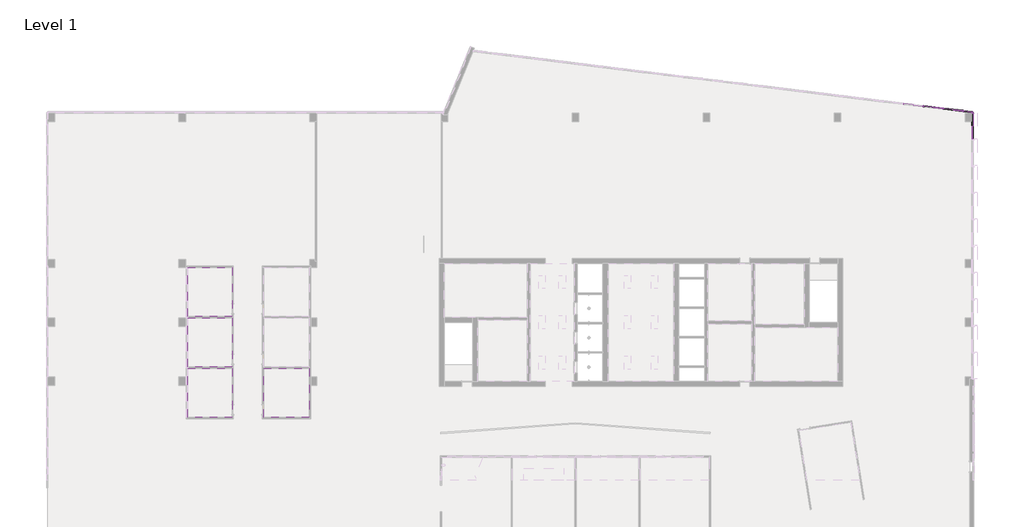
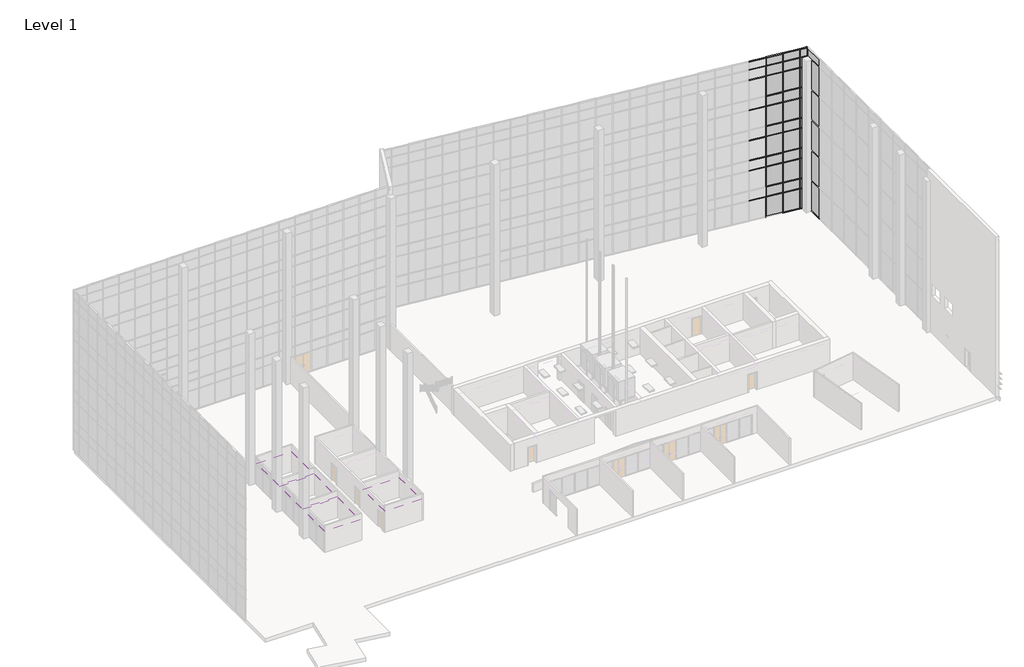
# One storey, part 22 of 23: 70 members, 39 plates, 4 coverings.
"""IFC4 building model written with IfcOpenShell, lengths in millimetres."""

from ifc_helpers import new_model, si_unit, frame, origin, place, context, project, spatial, polyline, outline, extrude, transform, mapped, element, save
from components import member_eccb456b, member_2b49869a, member_f92b8aa2, member_810865a4, member_f0fea5a5, member_6d5c3e5e, member_9764dd38, member_b8a9be14, member_51d7af99, member_28d637ce, member_84e75425, member_62aeda4f, member_2ab0c01c, system_panel_glazed_14c75400, system_panel_glazed_cc37a7cc, system_panel_glazed_4e55321f, system_panel_glazed_949c9f91, system_panel_solid_5dfe6f83, system_panel_solid_e25e2004, system_panel_solid_b7551183, system_panel_solid_72787f54, system_panel_solid_2f76c253, system_panel_solid_3860f7db

model = new_model("IFC4")

# Units and contexts
model_context = context("Model", 3, world=origin())
ifc_project = project(units=[si_unit("LENGTHUNIT", "METRE", prefix="MILLI")], contexts=[model_context])

# Site, building, storey
site = spatial("IfcSite", under=ifc_project)
building = spatial("IfcBuilding", under=site)
storey = spatial("IfcBuildingStorey", under=building, Name="Level 1", Elevation=0.0)

# Coverings
placement = place(None, origin())
element("IfcCovering", 1, ObjectType="2' x 2' ACT System", at=placement, inside=storey, context=model_context, shape_type="SweptSolid", body=[
    extrude(outline(polyline([(-44991.1999355, -13210.5103492), (-44991.1999355, -17655.5103492), (-49131.3999355, -17655.5103492), (-49131.3999355, -13210.5103492), (-44991.1999355, -13210.5103492)])), frame((0.0, 0.0, 2438.4), z_axis=(0.0, 0.0, 1.0), x_axis=(1.0, 0.0, 0.0)), (0.0, 0.0, 1.0), 57.15),
])
element("IfcCovering", 2, ObjectType="2' x 2' ACT System", at=placement, inside=storey, context=model_context, shape_type="SweptSolid", body=[
    extrude(outline(polyline([(-51987.0856498, -17655.5103492), (-56000.2856498, -17655.5103492), (-56000.2856498, -13210.5103492), (-51987.0856498, -13210.5103492), (-51987.0856498, -17655.5103492)])), frame((0.0, 0.0, 2438.4), z_axis=(0.0, 0.0, 1.0), x_axis=(1.0, 0.0, 0.0)), (0.0, 0.0, 1.0), 57.15),
])
element("IfcCovering", 3, ObjectType="2' x 2' ACT System", at=placement, inside=storey, context=model_context, shape_type="SweptSolid", body=[
    extrude(outline(polyline([(-56000.2856498, -13083.5103492), (-56000.2856498, -8638.5103492), (-51987.0856498, -8638.5103492), (-51987.0856498, -13083.5103492), (-56000.2856498, -13083.5103492)])), frame((0.0, 0.0, 2438.4), z_axis=(0.0, 0.0, 1.0), x_axis=(1.0, 0.0, 0.0)), (0.0, 0.0, 1.0), 57.15),
])
element("IfcCovering", 4, ObjectType="2' x 2' ACT System", at=placement, inside=storey, context=model_context, shape_type="SweptSolid", body=[
    extrude(outline(polyline([(-56000.2856498, -8511.5103492), (-56000.2856498, -4066.5103492), (-51987.0856498, -4066.5103492), (-51987.0856498, -8511.5103492), (-56000.2856498, -8511.5103492)])), frame((0.0, 0.0, 2438.4), z_axis=(0.0, 0.0, 1.0), x_axis=(1.0, 0.0, 0.0)), (0.0, 0.0, 1.0), 57.15),
])

# Members
member_shape = member_eccb456b(model_context)
element("IfcMember", 5, ObjectType="Quad Corner Mullion : 5\" x 5\" Quad Corner", at=placement, inside=storey, context=model_context, shape_type="MappedRepresentation", body=[
    mapped(member_shape, transform((15106.8054088, 9928.5486536, 0.0), x_axis=(0.0, 0.0, -1.0), y_axis=(-1.0, 0.0, 0.0), z_axis=(0.0, 1.0, 0.0))),
])
member_2_shape = member_2b49869a(model_context)
element("IfcMember", 6, ObjectType="Rectangular Mullion : 2.5\" x 5\" rectangular", at=placement, inside=storey, context=model_context, shape_type="MappedRepresentation", body=[
    mapped(member_2_shape, transform((12451.1844641, 10342.5479595, 2438.4), x_axis=(0.9925461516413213, -0.12186934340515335, 0.0), y_axis=(-0.12186934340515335, -0.9925461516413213, 0.0), z_axis=(0.0, 0.0, -1.0))),
])
member_3_shape = member_f92b8aa2(model_context)
element("IfcMember", 7, ObjectType="Rectangular Mullion : 2.5\" x 5\" rectangular", at=placement, inside=storey, context=model_context, shape_type="MappedRepresentation", body=[
    mapped(member_3_shape, transform((14266.3528662, 10119.6733043, 18288.0), x_axis=(0.9925461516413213, -0.12186934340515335, 0.0), y_axis=(-0.12186934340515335, -0.9925461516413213, 0.0), z_axis=(0.0, 0.0, -1.0))),
])
element("IfcMember", 8, ObjectType="Rectangular Mullion : 2.5\" x 5\" rectangular", at=placement, inside=storey, context=model_context, shape_type="MappedRepresentation", body=[
    mapped(member_3_shape, transform((12451.1844641, 10342.5479595, 18288.0), x_axis=(0.9925461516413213, -0.12186934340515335, 0.0), y_axis=(-0.12186934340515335, -0.9925461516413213, 0.0), z_axis=(0.0, 0.0, -1.0))),
])
member_4_shape = member_810865a4(model_context)
element("IfcMember", 9, ObjectType="Rectangular Mullion : 2.5\" x 5\" rectangular", at=placement, inside=storey, context=model_context, shape_type="MappedRepresentation", body=[
    mapped(member_4_shape, transform((14266.3528662, 10119.6733043, 14630.4), x_axis=(0.9925461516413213, -0.12186934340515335, 0.0), y_axis=(-0.12186934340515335, -0.9925461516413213, 0.0), z_axis=(0.0, 0.0, -1.0))),
])
element("IfcMember", 10, ObjectType="Rectangular Mullion : 2.5\" x 5\" rectangular", at=placement, inside=storey, context=model_context, shape_type="MappedRepresentation", body=[
    mapped(member_4_shape, transform((14266.3528662, 10119.6733043, 10972.8), x_axis=(0.9925461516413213, -0.12186934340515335, 0.0), y_axis=(-0.12186934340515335, -0.9925461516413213, 0.0), z_axis=(0.0, 0.0, -1.0))),
])
element("IfcMember", 11, ObjectType="Rectangular Mullion : 2.5\" x 5\" rectangular", at=placement, inside=storey, context=model_context, shape_type="MappedRepresentation", body=[
    mapped(member_4_shape, transform((14266.3528662, 10119.6733043, 7315.2), x_axis=(0.9925461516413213, -0.12186934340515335, 0.0), y_axis=(-0.12186934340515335, -0.9925461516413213, 0.0), z_axis=(0.0, 0.0, -1.0))),
])
element("IfcMember", 12, ObjectType="Rectangular Mullion : 2.5\" x 5\" rectangular", at=placement, inside=storey, context=model_context, shape_type="MappedRepresentation", body=[
    mapped(member_4_shape, transform((14266.3528662, 10119.6733043, 3657.6), x_axis=(0.9925461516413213, -0.12186934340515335, 0.0), y_axis=(-0.12186934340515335, -0.9925461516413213, 0.0), z_axis=(0.0, 0.0, -1.0))),
])
element("IfcMember", 13, ObjectType="Rectangular Mullion : 2.5\" x 5\" rectangular", at=placement, inside=storey, context=model_context, shape_type="MappedRepresentation", body=[
    mapped(member_4_shape, transform((12451.1844641, 10342.5479595, 14630.4), x_axis=(0.9925461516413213, -0.12186934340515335, 0.0), y_axis=(-0.12186934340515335, -0.9925461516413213, 0.0), z_axis=(0.0, 0.0, -1.0))),
])
element("IfcMember", 14, ObjectType="Rectangular Mullion : 2.5\" x 5\" rectangular", at=placement, inside=storey, context=model_context, shape_type="MappedRepresentation", body=[
    mapped(member_4_shape, transform((12451.1844641, 10342.5479595, 10972.8), x_axis=(0.9925461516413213, -0.12186934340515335, 0.0), y_axis=(-0.12186934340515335, -0.9925461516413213, 0.0), z_axis=(0.0, 0.0, -1.0))),
])
element("IfcMember", 15, ObjectType="Rectangular Mullion : 2.5\" x 5\" rectangular", at=placement, inside=storey, context=model_context, shape_type="MappedRepresentation", body=[
    mapped(member_4_shape, transform((12451.1844641, 10342.5479595, 7315.2), x_axis=(0.9925461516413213, -0.12186934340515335, 0.0), y_axis=(-0.12186934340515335, -0.9925461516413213, 0.0), z_axis=(0.0, 0.0, -1.0))),
])
element("IfcMember", 16, ObjectType="Rectangular Mullion : 2.5\" x 5\" rectangular", at=placement, inside=storey, context=model_context, shape_type="MappedRepresentation", body=[
    mapped(member_4_shape, transform((12451.1844641, 10342.5479595, 3657.6), x_axis=(0.9925461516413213, -0.12186934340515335, 0.0), y_axis=(-0.12186934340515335, -0.9925461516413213, 0.0), z_axis=(0.0, 0.0, -1.0))),
])
element("IfcMember", 17, ObjectType="Rectangular Mullion : 2.5\" x 5\" rectangular", at=placement, inside=storey, context=model_context, shape_type="MappedRepresentation", body=[
    mapped(member_4_shape, transform((10636.016062, 10565.4226148, 14630.4), x_axis=(0.9925461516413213, -0.12186934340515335, 0.0), y_axis=(-0.12186934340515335, -0.9925461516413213, 0.0), z_axis=(0.0, 0.0, -1.0))),
])
element("IfcMember", 18, ObjectType="Rectangular Mullion : 2.5\" x 5\" rectangular", at=placement, inside=storey, context=model_context, shape_type="MappedRepresentation", body=[
    mapped(member_4_shape, transform((10636.016062, 10565.4226148, 10972.8), x_axis=(0.9925461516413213, -0.12186934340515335, 0.0), y_axis=(-0.12186934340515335, -0.9925461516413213, 0.0), z_axis=(0.0, 0.0, -1.0))),
])
element("IfcMember", 19, ObjectType="Rectangular Mullion : 2.5\" x 5\" rectangular", at=placement, inside=storey, context=model_context, shape_type="MappedRepresentation", body=[
    mapped(member_4_shape, transform((10636.016062, 10565.4226148, 7315.2), x_axis=(0.9925461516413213, -0.12186934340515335, 0.0), y_axis=(-0.12186934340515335, -0.9925461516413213, 0.0), z_axis=(0.0, 0.0, -1.0))),
])
element("IfcMember", 20, ObjectType="Rectangular Mullion : 2.5\" x 5\" rectangular", at=placement, inside=storey, context=model_context, shape_type="MappedRepresentation", body=[
    mapped(member_4_shape, transform((10636.016062, 10565.4226148, 3657.6), x_axis=(0.9925461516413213, -0.12186934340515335, 0.0), y_axis=(-0.12186934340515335, -0.9925461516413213, 0.0), z_axis=(0.0, 0.0, -1.0))),
])
member_5_shape = member_f0fea5a5(model_context)
element("IfcMember", 21, ObjectType="Rectangular Mullion : 2.5\" x 5\" rectangular", at=placement, inside=storey, context=model_context, shape_type="MappedRepresentation", body=[
    mapped(member_5_shape, transform((12451.1844641, 10342.5479595, 0.0), x_axis=(0.9925461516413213, -0.12186934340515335, 0.0), y_axis=(-0.12186934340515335, -0.9925461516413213, 0.0), z_axis=(0.0, 0.0, -1.0))),
])
element("IfcMember", 22, ObjectType="Rectangular Mullion : 2.5\" x 5\" rectangular", at=placement, inside=storey, context=model_context, shape_type="MappedRepresentation", body=[
    mapped(member_5_shape, transform((10636.016062, 10565.4226148, 0.0), x_axis=(0.9925461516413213, -0.12186934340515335, 0.0), y_axis=(-0.12186934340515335, -0.9925461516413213, 0.0), z_axis=(0.0, 0.0, -1.0))),
])
element("IfcMember", 23, ObjectType="Rectangular Mullion : 2.5\" x 5\" rectangular", at=placement, inside=storey, context=model_context, shape_type="MappedRepresentation", body=[
    mapped(member_5_shape, transform((14266.3528662, 10119.6733043, 0.0), x_axis=(0.9925461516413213, -0.12186934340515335, 0.0), y_axis=(-0.12186934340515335, -0.9925461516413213, 0.0), z_axis=(0.0, 0.0, -1.0))),
])
element("IfcMember", 24, ObjectType="Rectangular Mullion : 2.5\" x 5\" rectangular", at=placement, inside=storey, context=model_context, shape_type="MappedRepresentation", body=[
    mapped(member_2_shape, transform((14266.3528662, 10119.6733043, 2438.4), x_axis=(0.9925461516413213, -0.12186934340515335, 0.0), y_axis=(-0.12186934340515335, -0.9925461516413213, 0.0), z_axis=(0.0, 0.0, -1.0))),
])
member_6_shape = member_6d5c3e5e(model_context)
element("IfcMember", 25, ObjectType="Rectangular Mullion : 2.5\" x 5\" rectangular", at=placement, inside=storey, context=model_context, shape_type="MappedRepresentation", body=[
    mapped(member_6_shape, transform((14234.8395259, 10123.542656, 19304.0), x_axis=(0.0, 0.0, 1.0), y_axis=(-0.12186934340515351, -0.9925461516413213, 0.0), z_axis=(0.9925461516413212, -0.1218693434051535, 0.0))),
])
element("IfcMember", 26, ObjectType="Rectangular Mullion : 2.5\" x 5\" rectangular", at=placement, inside=storey, context=model_context, shape_type="MappedRepresentation", body=[
    mapped(member_6_shape, transform((12419.6711238, 10346.4173112, 19304.0), x_axis=(0.0, 0.0, 1.0), y_axis=(-0.12186934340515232, -0.9925461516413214, 0.0), z_axis=(0.9925461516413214, -0.12186934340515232, 0.0))),
])
element("IfcMember", 27, ObjectType="Rectangular Mullion : 2.5\" x 5\" rectangular", at=placement, inside=storey, context=model_context, shape_type="MappedRepresentation", body=[
    mapped(member_6_shape, transform((10604.5027217, 10569.2919664, 19304.0), x_axis=(0.0, 0.0, 1.0), y_axis=(-0.12186934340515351, -0.9925461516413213, 0.0), z_axis=(0.9925461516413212, -0.1218693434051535, 0.0))),
])
member_7_shape = member_9764dd38(model_context)
element("IfcMember", 28, ObjectType="Rectangular Mullion : 2.5\" x 5\" rectangular", at=placement, inside=storey, context=model_context, shape_type="MappedRepresentation", body=[
    mapped(member_7_shape, transform((14234.8395259, 10123.542656, 17068.8), x_axis=(0.0, 0.0, 1.0), y_axis=(-0.12186934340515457, -0.9925461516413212, 0.0), z_axis=(0.9925461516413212, -0.12186934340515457, 0.0))),
])
element("IfcMember", 29, ObjectType="Rectangular Mullion : 2.5\" x 5\" rectangular", at=placement, inside=storey, context=model_context, shape_type="MappedRepresentation", body=[
    mapped(member_7_shape, transform((12419.6711238, 10346.4173112, 17068.8), x_axis=(0.0, 0.0, 1.0), y_axis=(-0.12186934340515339, -0.9925461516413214, 0.0), z_axis=(0.9925461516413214, -0.12186934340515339, 0.0))),
])
element("IfcMember", 30, ObjectType="Rectangular Mullion : 2.5\" x 5\" rectangular", at=placement, inside=storey, context=model_context, shape_type="MappedRepresentation", body=[
    mapped(member_7_shape, transform((10604.5027217, 10569.2919664, 17068.8), x_axis=(0.0, 0.0, 1.0), y_axis=(-0.12186934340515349, -0.9925461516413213, 0.0), z_axis=(0.9925461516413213, -0.12186934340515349, 0.0))),
])
element("IfcMember", 31, ObjectType="Rectangular Mullion : 2.5\" x 5\" rectangular", at=placement, inside=storey, context=model_context, shape_type="MappedRepresentation", body=[
    mapped(member_7_shape, transform((14234.8395259, 10123.542656, 13411.2), x_axis=(0.0, 0.0, 1.0), y_axis=(-0.12186934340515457, -0.9925461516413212, 0.0), z_axis=(0.9925461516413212, -0.12186934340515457, 0.0))),
])
element("IfcMember", 32, ObjectType="Rectangular Mullion : 2.5\" x 5\" rectangular", at=placement, inside=storey, context=model_context, shape_type="MappedRepresentation", body=[
    mapped(member_7_shape, transform((12419.6711238, 10346.4173112, 13411.2), x_axis=(0.0, 0.0, 1.0), y_axis=(-0.12186934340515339, -0.9925461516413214, 0.0), z_axis=(0.9925461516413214, -0.12186934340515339, 0.0))),
])
element("IfcMember", 33, ObjectType="Rectangular Mullion : 2.5\" x 5\" rectangular", at=placement, inside=storey, context=model_context, shape_type="MappedRepresentation", body=[
    mapped(member_7_shape, transform((10604.5027217, 10569.2919664, 13411.2), x_axis=(0.0, 0.0, 1.0), y_axis=(-0.12186934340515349, -0.9925461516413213, 0.0), z_axis=(0.9925461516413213, -0.12186934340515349, 0.0))),
])
element("IfcMember", 34, ObjectType="Rectangular Mullion : 2.5\" x 5\" rectangular", at=placement, inside=storey, context=model_context, shape_type="MappedRepresentation", body=[
    mapped(member_7_shape, transform((14234.8395259, 10123.542656, 9753.6), x_axis=(0.0, 0.0, 1.0), y_axis=(-0.12186934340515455, -0.9925461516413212, 0.0), z_axis=(0.9925461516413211, -0.12186934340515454, 0.0))),
])
element("IfcMember", 35, ObjectType="Rectangular Mullion : 2.5\" x 5\" rectangular", at=placement, inside=storey, context=model_context, shape_type="MappedRepresentation", body=[
    mapped(member_7_shape, transform((12419.6711238, 10346.4173112, 9753.6), x_axis=(0.0, 0.0, 1.0), y_axis=(-0.12186934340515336, -0.9925461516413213, 0.0), z_axis=(0.9925461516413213, -0.12186934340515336, 0.0))),
])
element("IfcMember", 36, ObjectType="Rectangular Mullion : 2.5\" x 5\" rectangular", at=placement, inside=storey, context=model_context, shape_type="MappedRepresentation", body=[
    mapped(member_7_shape, transform((10604.5027217, 10569.2919664, 9753.6), x_axis=(0.0, 0.0, 1.0), y_axis=(-0.12186934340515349, -0.9925461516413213, 0.0), z_axis=(0.9925461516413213, -0.12186934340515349, 0.0))),
])
element("IfcMember", 37, ObjectType="Rectangular Mullion : 2.5\" x 5\" rectangular", at=placement, inside=storey, context=model_context, shape_type="MappedRepresentation", body=[
    mapped(member_7_shape, transform((14234.8395259, 10123.542656, 6096.0), x_axis=(0.0, 0.0, 1.0), y_axis=(-0.12186934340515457, -0.9925461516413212, 0.0), z_axis=(0.9925461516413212, -0.12186934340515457, 0.0))),
])
element("IfcMember", 38, ObjectType="Rectangular Mullion : 2.5\" x 5\" rectangular", at=placement, inside=storey, context=model_context, shape_type="MappedRepresentation", body=[
    mapped(member_7_shape, transform((12419.6711238, 10346.4173112, 6096.0), x_axis=(0.0, 0.0, 1.0), y_axis=(-0.12186934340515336, -0.9925461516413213, 0.0), z_axis=(0.9925461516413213, -0.12186934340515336, 0.0))),
])
element("IfcMember", 39, ObjectType="Rectangular Mullion : 2.5\" x 5\" rectangular", at=placement, inside=storey, context=model_context, shape_type="MappedRepresentation", body=[
    mapped(member_7_shape, transform((10604.5027217, 10569.2919664, 6096.0), x_axis=(0.0, 0.0, 1.0), y_axis=(-0.12186934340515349, -0.9925461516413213, 0.0), z_axis=(0.9925461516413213, -0.12186934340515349, 0.0))),
])
element("IfcMember", 40, ObjectType="Rectangular Mullion : 2.5\" x 5\" rectangular", at=placement, inside=storey, context=model_context, shape_type="MappedRepresentation", body=[
    mapped(member_7_shape, transform((14234.8395259, 10123.542656, 2470.15), x_axis=(0.0, 0.0, 1.0), y_axis=(-0.12186934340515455, -0.9925461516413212, 0.0), z_axis=(0.9925461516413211, -0.12186934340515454, 0.0))),
])
element("IfcMember", 41, ObjectType="Rectangular Mullion : 2.5\" x 5\" rectangular", at=placement, inside=storey, context=model_context, shape_type="MappedRepresentation", body=[
    mapped(member_7_shape, transform((12419.6711238, 10346.4173112, 2470.15), x_axis=(0.0, 0.0, 1.0), y_axis=(-0.12186934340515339, -0.9925461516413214, 0.0), z_axis=(0.9925461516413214, -0.12186934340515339, 0.0))),
])
element("IfcMember", 42, ObjectType="Rectangular Mullion : 2.5\" x 5\" rectangular", at=placement, inside=storey, context=model_context, shape_type="MappedRepresentation", body=[
    mapped(member_7_shape, transform((10604.5027217, 10569.2919664, 2470.15), x_axis=(0.0, 0.0, 1.0), y_axis=(-0.12186934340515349, -0.9925461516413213, 0.0), z_axis=(0.9925461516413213, -0.12186934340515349, 0.0))),
])
member_8_shape = member_b8a9be14(model_context)
element("IfcMember", 43, ObjectType="Rectangular Mullion : 2.5\" x 5\" rectangular", at=placement, inside=storey, context=model_context, shape_type="MappedRepresentation", body=[
    mapped(member_8_shape, transform((15019.5307718, 10027.1946859, 19304.0), x_axis=(0.0, 0.0, 1.0), y_axis=(-0.12186934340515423, -0.9925461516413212, 0.0), z_axis=(0.9925461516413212, -0.12186934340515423, 0.0))),
])
member_9_shape = member_51d7af99(model_context)
element("IfcMember", 44, ObjectType="Rectangular Mullion : 2.5\" x 5\" rectangular", at=placement, inside=storey, context=model_context, shape_type="MappedRepresentation", body=[
    mapped(member_9_shape, transform((15019.5307718, 10027.1946859, 17068.8), x_axis=(0.0, 0.0, 1.0), y_axis=(-0.12186934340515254, -0.9925461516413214, 0.0), z_axis=(0.9925461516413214, -0.12186934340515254, 0.0))),
])
element("IfcMember", 45, ObjectType="Rectangular Mullion : 2.5\" x 5\" rectangular", at=placement, inside=storey, context=model_context, shape_type="MappedRepresentation", body=[
    mapped(member_9_shape, transform((15019.5307718, 10027.1946859, 13411.2), x_axis=(0.0, 0.0, 1.0), y_axis=(-0.12186934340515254, -0.9925461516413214, 0.0), z_axis=(0.9925461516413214, -0.12186934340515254, 0.0))),
])
element("IfcMember", 46, ObjectType="Rectangular Mullion : 2.5\" x 5\" rectangular", at=placement, inside=storey, context=model_context, shape_type="MappedRepresentation", body=[
    mapped(member_9_shape, transform((15019.5307718, 10027.1946859, 9753.6), x_axis=(0.0, 0.0, 1.0), y_axis=(-0.12186934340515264, -0.9925461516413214, 0.0), z_axis=(0.9925461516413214, -0.12186934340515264, 0.0))),
])
element("IfcMember", 47, ObjectType="Rectangular Mullion : 2.5\" x 5\" rectangular", at=placement, inside=storey, context=model_context, shape_type="MappedRepresentation", body=[
    mapped(member_9_shape, transform((15019.5307718, 10027.1946859, 6096.0), x_axis=(0.0, 0.0, 1.0), y_axis=(-0.12186934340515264, -0.9925461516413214, 0.0), z_axis=(0.9925461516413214, -0.12186934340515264, 0.0))),
])
element("IfcMember", 48, ObjectType="Rectangular Mullion : 2.5\" x 5\" rectangular", at=placement, inside=storey, context=model_context, shape_type="MappedRepresentation", body=[
    mapped(member_6_shape, transform((12482.6978044, 10338.6786079, 0.0), x_axis=(0.0, 0.0, -1.0), y_axis=(-0.12186934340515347, -0.9925461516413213, 0.0), z_axis=(-0.9925461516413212, 0.12186934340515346, 0.0))),
])
element("IfcMember", 49, ObjectType="Rectangular Mullion : 2.5\" x 5\" rectangular", at=placement, inside=storey, context=model_context, shape_type="MappedRepresentation", body=[
    mapped(member_8_shape, transform((14297.8662065, 10115.8039527, 0.0), x_axis=(0.0, 0.0, -1.0), y_axis=(-0.12186934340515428, -0.9925461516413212, 0.0), z_axis=(-0.9925461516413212, 0.12186934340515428, 0.0))),
])
element("IfcMember", 50, ObjectType="Rectangular Mullion : 2.5\" x 5\" rectangular", at=placement, inside=storey, context=model_context, shape_type="MappedRepresentation", body=[
    mapped(member_7_shape, transform((14234.8395259, 10123.542656, 7315.2), x_axis=(0.0, 0.0, 1.0), y_axis=(-0.12186934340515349, -0.9925461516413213, 0.0), z_axis=(0.9925461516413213, -0.12186934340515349, 0.0))),
])
element("IfcMember", 51, ObjectType="Rectangular Mullion : 2.5\" x 5\" rectangular", at=placement, inside=storey, context=model_context, shape_type="MappedRepresentation", body=[
    mapped(member_7_shape, transform((12419.6711238, 10346.4173112, 7315.2), x_axis=(0.0, 0.0, 1.0), y_axis=(-0.12186934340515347, -0.9925461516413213, 0.0), z_axis=(0.9925461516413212, -0.12186934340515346, 0.0))),
])
element("IfcMember", 52, ObjectType="Rectangular Mullion : 2.5\" x 5\" rectangular", at=placement, inside=storey, context=model_context, shape_type="MappedRepresentation", body=[
    mapped(member_7_shape, transform((14234.8395259, 10123.542656, 10972.8), x_axis=(0.0, 0.0, 1.0), y_axis=(-0.12186934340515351, -0.9925461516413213, 0.0), z_axis=(0.9925461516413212, -0.1218693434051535, 0.0))),
])
element("IfcMember", 53, ObjectType="Rectangular Mullion : 2.5\" x 5\" rectangular", at=placement, inside=storey, context=model_context, shape_type="MappedRepresentation", body=[
    mapped(member_7_shape, transform((12419.6711238, 10346.4173112, 10972.8), x_axis=(0.0, 0.0, 1.0), y_axis=(-0.12186934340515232, -0.9925461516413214, 0.0), z_axis=(0.9925461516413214, -0.12186934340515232, 0.0))),
])
element("IfcMember", 54, ObjectType="Rectangular Mullion : 2.5\" x 5\" rectangular", at=placement, inside=storey, context=model_context, shape_type="MappedRepresentation", body=[
    mapped(member_7_shape, transform((12419.6711238, 10346.4173112, 3657.6), x_axis=(0.0, 0.0, 1.0), y_axis=(-0.12186934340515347, -0.9925461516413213, 0.0), z_axis=(0.9925461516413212, -0.12186934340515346, 0.0))),
])
element("IfcMember", 55, ObjectType="Rectangular Mullion : 2.5\" x 5\" rectangular", at=placement, inside=storey, context=model_context, shape_type="MappedRepresentation", body=[
    mapped(member_7_shape, transform((14234.8395259, 10123.542656, 3657.6), x_axis=(0.0, 0.0, 1.0), y_axis=(-0.12186934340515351, -0.9925461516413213, 0.0), z_axis=(0.9925461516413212, -0.1218693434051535, 0.0))),
])
element("IfcMember", 56, ObjectType="Rectangular Mullion : 2.5\" x 5\" rectangular", at=placement, inside=storey, context=model_context, shape_type="MappedRepresentation", body=[
    mapped(member_7_shape, transform((14234.8395259, 10123.542656, 14630.4), x_axis=(0.0, 0.0, 1.0), y_axis=(-0.12186934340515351, -0.9925461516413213, 0.0), z_axis=(0.9925461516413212, -0.1218693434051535, 0.0))),
])
element("IfcMember", 57, ObjectType="Rectangular Mullion : 2.5\" x 5\" rectangular", at=placement, inside=storey, context=model_context, shape_type="MappedRepresentation", body=[
    mapped(member_7_shape, transform((12419.6711238, 10346.4173112, 14630.4), x_axis=(0.0, 0.0, 1.0), y_axis=(-0.12186934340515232, -0.9925461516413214, 0.0), z_axis=(0.9925461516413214, -0.12186934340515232, 0.0))),
])
element("IfcMember", 58, ObjectType="Rectangular Mullion : 2.5\" x 5\" rectangular", at=placement, inside=storey, context=model_context, shape_type="MappedRepresentation", body=[
    mapped(member_7_shape, transform((10604.5027217, 10569.2919664, 7315.2), x_axis=(0.0, 0.0, 1.0), y_axis=(-0.12186934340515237, -0.9925461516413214, 0.0), z_axis=(0.9925461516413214, -0.12186934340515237, 0.0))),
])
element("IfcMember", 59, ObjectType="Rectangular Mullion : 2.5\" x 5\" rectangular", at=placement, inside=storey, context=model_context, shape_type="MappedRepresentation", body=[
    mapped(member_7_shape, transform((14234.8395259, 10123.542656, 18288.0), x_axis=(0.0, 0.0, 1.0), y_axis=(-0.12186934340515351, -0.9925461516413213, 0.0), z_axis=(0.9925461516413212, -0.1218693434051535, 0.0))),
])
element("IfcMember", 60, ObjectType="Rectangular Mullion : 2.5\" x 5\" rectangular", at=placement, inside=storey, context=model_context, shape_type="MappedRepresentation", body=[
    mapped(member_7_shape, transform((12419.6711238, 10346.4173112, 18288.0), x_axis=(0.0, 0.0, 1.0), y_axis=(-0.12186934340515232, -0.9925461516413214, 0.0), z_axis=(0.9925461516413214, -0.12186934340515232, 0.0))),
])
element("IfcMember", 61, ObjectType="Rectangular Mullion : 2.5\" x 5\" rectangular", at=placement, inside=storey, context=model_context, shape_type="MappedRepresentation", body=[
    mapped(member_7_shape, transform((10604.5027217, 10569.2919664, 18288.0), x_axis=(0.0, 0.0, 1.0), y_axis=(-0.12186934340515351, -0.9925461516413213, 0.0), z_axis=(0.9925461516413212, -0.1218693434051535, 0.0))),
])
element("IfcMember", 62, ObjectType="Rectangular Mullion : 2.5\" x 5\" rectangular", at=placement, inside=storey, context=model_context, shape_type="MappedRepresentation", body=[
    mapped(member_9_shape, transform((15019.5307718, 10027.1946859, 7315.2), x_axis=(0.0, 0.0, 1.0), y_axis=(-0.12186934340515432, -0.9925461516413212, 0.0), z_axis=(0.9925461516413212, -0.12186934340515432, 0.0))),
])
element("IfcMember", 63, ObjectType="Rectangular Mullion : 2.5\" x 5\" rectangular", at=placement, inside=storey, context=model_context, shape_type="MappedRepresentation", body=[
    mapped(member_9_shape, transform((15019.5307718, 10027.1946859, 10972.8), x_axis=(0.0, 0.0, 1.0), y_axis=(-0.12186934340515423, -0.9925461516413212, 0.0), z_axis=(0.9925461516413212, -0.12186934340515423, 0.0))),
])
element("IfcMember", 64, ObjectType="Rectangular Mullion : 2.5\" x 5\" rectangular", at=placement, inside=storey, context=model_context, shape_type="MappedRepresentation", body=[
    mapped(member_9_shape, transform((15019.5307718, 10027.1946859, 3657.6), x_axis=(0.0, 0.0, 1.0), y_axis=(-0.12186934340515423, -0.9925461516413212, 0.0), z_axis=(0.9925461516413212, -0.12186934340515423, 0.0))),
])
element("IfcMember", 65, ObjectType="Rectangular Mullion : 2.5\" x 5\" rectangular", at=placement, inside=storey, context=model_context, shape_type="MappedRepresentation", body=[
    mapped(member_9_shape, transform((15019.5307718, 10027.1946859, 14630.4), x_axis=(0.0, 0.0, 1.0), y_axis=(-0.12186934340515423, -0.9925461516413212, 0.0), z_axis=(0.9925461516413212, -0.12186934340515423, 0.0))),
])
element("IfcMember", 66, ObjectType="Rectangular Mullion : 2.5\" x 5\" rectangular", at=placement, inside=storey, context=model_context, shape_type="MappedRepresentation", body=[
    mapped(member_9_shape, transform((15019.5307718, 10027.1946859, 18288.0), x_axis=(0.0, 0.0, 1.0), y_axis=(-0.12186934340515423, -0.9925461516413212, 0.0), z_axis=(0.9925461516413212, -0.12186934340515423, 0.0))),
])
element("IfcMember", 67, ObjectType="Rectangular Mullion : 2.5\" x 5\" rectangular", at=placement, inside=storey, context=model_context, shape_type="MappedRepresentation", body=[
    mapped(member_9_shape, transform((15019.5307718, 10027.1946859, 2438.4), x_axis=(0.0, 0.0, 1.0), y_axis=(-0.12186934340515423, -0.9925461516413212, 0.0), z_axis=(0.9925461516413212, -0.12186934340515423, 0.0))),
])
member_10_shape = member_28d637ce(model_context)
element("IfcMember", 68, ObjectType="V Corner Mullion : 5\" V Corner", at=placement, inside=storey, context=model_context, shape_type="MappedRepresentation", body=[
    mapped(member_10_shape, transform((15106.8054088, 10016.4787079, 0.0), x_axis=(0.9925461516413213, -0.12186934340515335, 0.0), y_axis=(-0.12186934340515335, -0.9925461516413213, 0.0), z_axis=(0.0, 0.0, -1.0))),
])
member_11_shape = member_84e75425(model_context)
element("IfcMember", 69, ObjectType="V Corner Mullion : 5\" V Corner", at=placement, inside=storey, context=model_context, shape_type="MappedRepresentation", body=[
    mapped(member_11_shape, transform((15106.8054088, 10016.4787079, 2438.4), x_axis=(0.9925461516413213, -0.12186934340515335, 0.0), y_axis=(-0.12186934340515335, -0.9925461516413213, 0.0), z_axis=(0.0, 0.0, -1.0))),
])
member_12_shape = member_62aeda4f(model_context)
element("IfcMember", 70, ObjectType="V Corner Mullion : 5\" V Corner", at=placement, inside=storey, context=model_context, shape_type="MappedRepresentation", body=[
    mapped(member_12_shape, transform((15106.8054088, 10016.4787079, 18288.0), x_axis=(0.9925461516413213, -0.12186934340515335, 0.0), y_axis=(-0.12186934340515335, -0.9925461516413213, 0.0), z_axis=(0.0, 0.0, -1.0))),
])
member_13_shape = member_2ab0c01c(model_context)
element("IfcMember", 71, ObjectType="V Corner Mullion : 5\" V Corner", at=placement, inside=storey, context=model_context, shape_type="MappedRepresentation", body=[
    mapped(member_13_shape, transform((15106.8054088, 10016.4787079, 14630.4), x_axis=(0.9925461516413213, -0.12186934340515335, 0.0), y_axis=(-0.12186934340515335, -0.9925461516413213, 0.0), z_axis=(0.0, 0.0, -1.0))),
])
element("IfcMember", 72, ObjectType="V Corner Mullion : 5\" V Corner", at=placement, inside=storey, context=model_context, shape_type="MappedRepresentation", body=[
    mapped(member_13_shape, transform((15106.8054088, 10016.4787079, 10972.8), x_axis=(0.9925461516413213, -0.12186934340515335, 0.0), y_axis=(-0.12186934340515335, -0.9925461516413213, 0.0), z_axis=(0.0, 0.0, -1.0))),
])
element("IfcMember", 73, ObjectType="V Corner Mullion : 5\" V Corner", at=placement, inside=storey, context=model_context, shape_type="MappedRepresentation", body=[
    mapped(member_13_shape, transform((15106.8054088, 10016.4787079, 7315.2), x_axis=(0.9925461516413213, -0.12186934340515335, 0.0), y_axis=(-0.12186934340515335, -0.9925461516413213, 0.0), z_axis=(0.0, 0.0, -1.0))),
])
element("IfcMember", 74, ObjectType="V Corner Mullion : 5\" V Corner", at=placement, inside=storey, context=model_context, shape_type="MappedRepresentation", body=[
    mapped(member_13_shape, transform((15106.8054088, 10016.4787079, 3657.6), x_axis=(0.9925461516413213, -0.12186934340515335, 0.0), y_axis=(-0.12186934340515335, -0.9925461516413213, 0.0), z_axis=(0.0, 0.0, -1.0))),
])

# Plates
system_panel_glazed_shape = system_panel_glazed_14c75400(model_context)
element("IfcPlate", 75, ObjectType="System Panel : Glazed", at=placement, inside=storey, context=model_context, shape_type="MappedRepresentation", body=[
    mapped(system_panel_glazed_shape, transform((13358.7686652, 10231.1106319, 14662.15), x_axis=(0.9925461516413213, -0.12186934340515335, 0.0), y_axis=(0.12186934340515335, 0.9925461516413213, 0.0), z_axis=(0.0, 0.0, 1.0))),
])
element("IfcPlate", 76, ObjectType="System Panel : Glazed", at=placement, inside=storey, context=model_context, shape_type="MappedRepresentation", body=[
    mapped(system_panel_glazed_shape, transform((11543.600263, 10453.9852872, 14662.15), x_axis=(0.9925461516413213, -0.12186934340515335, 0.0), y_axis=(0.12186934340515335, 0.9925461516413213, 0.0), z_axis=(0.0, 0.0, 1.0))),
])
element("IfcPlate", 77, ObjectType="System Panel : Glazed", at=placement, inside=storey, context=model_context, shape_type="MappedRepresentation", body=[
    mapped(system_panel_glazed_shape, transform((13358.7686652, 10231.1106319, 11004.55), x_axis=(0.9925461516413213, -0.12186934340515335, 0.0), y_axis=(0.12186934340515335, 0.9925461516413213, 0.0), z_axis=(0.0, 0.0, 1.0))),
])
element("IfcPlate", 78, ObjectType="System Panel : Glazed", at=placement, inside=storey, context=model_context, shape_type="MappedRepresentation", body=[
    mapped(system_panel_glazed_shape, transform((11543.600263, 10453.9852872, 11004.55), x_axis=(0.9925461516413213, -0.12186934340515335, 0.0), y_axis=(0.12186934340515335, 0.9925461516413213, 0.0), z_axis=(0.0, 0.0, 1.0))),
])
element("IfcPlate", 79, ObjectType="System Panel : Glazed", at=placement, inside=storey, context=model_context, shape_type="MappedRepresentation", body=[
    mapped(system_panel_glazed_shape, transform((13358.7686652, 10231.1106319, 7346.95), x_axis=(0.9925461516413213, -0.12186934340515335, 0.0), y_axis=(0.12186934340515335, 0.9925461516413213, 0.0), z_axis=(0.0, 0.0, 1.0))),
])
element("IfcPlate", 80, ObjectType="System Panel : Glazed", at=placement, inside=storey, context=model_context, shape_type="MappedRepresentation", body=[
    mapped(system_panel_glazed_shape, transform((11543.600263, 10453.9852872, 7346.95), x_axis=(0.9925461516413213, -0.12186934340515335, 0.0), y_axis=(0.12186934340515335, 0.9925461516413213, 0.0), z_axis=(0.0, 0.0, 1.0))),
])
element("IfcPlate", 81, ObjectType="System Panel : Glazed", at=placement, inside=storey, context=model_context, shape_type="MappedRepresentation", body=[
    mapped(system_panel_glazed_shape, transform((13358.7686652, 10231.1106319, 3689.35), x_axis=(0.9925461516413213, -0.12186934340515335, 0.0), y_axis=(0.12186934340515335, 0.9925461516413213, 0.0), z_axis=(0.0, 0.0, 1.0))),
])
element("IfcPlate", 82, ObjectType="System Panel : Glazed", at=placement, inside=storey, context=model_context, shape_type="MappedRepresentation", body=[
    mapped(system_panel_glazed_shape, transform((11543.600263, 10453.9852872, 3689.35), x_axis=(0.9925461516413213, -0.12186934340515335, 0.0), y_axis=(0.12186934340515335, 0.9925461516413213, 0.0), z_axis=(0.0, 0.0, 1.0))),
])
element("IfcPlate", 83, ObjectType="System Panel : Glazed", at=placement, inside=storey, context=model_context, shape_type="MappedRepresentation", body=[
    mapped(system_panel_glazed_shape, transform((13358.7686652, 10231.1106319, 63.5), x_axis=(0.9925461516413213, -0.12186934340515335, 0.0), y_axis=(0.12186934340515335, 0.9925461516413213, 0.0), z_axis=(0.0, 0.0, 1.0))),
])
element("IfcPlate", 84, ObjectType="System Panel : Glazed", at=placement, inside=storey, context=model_context, shape_type="MappedRepresentation", body=[
    mapped(system_panel_glazed_shape, transform((11543.600263, 10453.9852872, 63.5), x_axis=(0.9925461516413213, -0.12186934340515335, 0.0), y_axis=(0.12186934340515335, 0.9925461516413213, 0.0), z_axis=(0.0, 0.0, 1.0))),
])
system_panel_glazed_2_shape = system_panel_glazed_cc37a7cc(model_context)
element("IfcPlate", 85, ObjectType="System Panel : Glazed", at=placement, inside=storey, context=model_context, shape_type="MappedRepresentation", body=[
    mapped(system_panel_glazed_2_shape, transform((14658.6984892, 10071.4993193, 14662.15), x_axis=(0.9925461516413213, -0.12186934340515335, 0.0), y_axis=(0.12186934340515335, 0.9925461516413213, 0.0), z_axis=(0.0, 0.0, 1.0))),
])
element("IfcPlate", 86, ObjectType="System Panel : Glazed", at=placement, inside=storey, context=model_context, shape_type="MappedRepresentation", body=[
    mapped(system_panel_glazed_2_shape, transform((14658.6984892, 10071.4993193, 11004.55), x_axis=(0.9925461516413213, -0.12186934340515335, 0.0), y_axis=(0.12186934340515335, 0.9925461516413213, 0.0), z_axis=(0.0, 0.0, 1.0))),
])
element("IfcPlate", 87, ObjectType="System Panel : Glazed", at=placement, inside=storey, context=model_context, shape_type="MappedRepresentation", body=[
    mapped(system_panel_glazed_2_shape, transform((14658.6984892, 10071.4993193, 7346.95), x_axis=(0.9925461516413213, -0.12186934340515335, 0.0), y_axis=(0.12186934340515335, 0.9925461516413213, 0.0), z_axis=(0.0, 0.0, 1.0))),
])
element("IfcPlate", 88, ObjectType="System Panel : Glazed", at=placement, inside=storey, context=model_context, shape_type="MappedRepresentation", body=[
    mapped(system_panel_glazed_2_shape, transform((14658.6984892, 10071.4993193, 3689.35), x_axis=(0.9925461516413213, -0.12186934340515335, 0.0), y_axis=(0.12186934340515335, 0.9925461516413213, 0.0), z_axis=(0.0, 0.0, 1.0))),
])
system_panel_glazed_3_shape = system_panel_glazed_4e55321f(model_context)
element("IfcPlate", 89, ObjectType="System Panel : Glazed", at=placement, inside=storey, context=model_context, shape_type="MappedRepresentation", body=[
    mapped(system_panel_glazed_3_shape, transform((14658.6984892, 10071.4993193, 63.5), x_axis=(0.9925461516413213, -0.12186934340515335, 0.0), y_axis=(0.12186934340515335, 0.9925461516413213, 0.0), z_axis=(0.0, 0.0, 1.0))),
])
system_panel_glazed_4_shape = system_panel_glazed_949c9f91(model_context)
element("IfcPlate", 90, ObjectType="System Panel : Glazed", at=placement, inside=storey, context=model_context, shape_type="MappedRepresentation", body=[
    mapped(system_panel_glazed_4_shape, transform((15106.8054088, 8758.9233064, 40.7728811), x_axis=(0.0, -1.0, 0.0), y_axis=(1.0, 0.0, 0.0), z_axis=(0.0, 0.0, 1.0))),
])
element("IfcPlate", 91, ObjectType="System Panel : Glazed", at=placement, inside=storey, context=model_context, shape_type="MappedRepresentation", body=[
    mapped(system_panel_glazed_4_shape, transform((15106.8054088, 8758.9233064, 3698.3728811), x_axis=(0.0, -1.0, 0.0), y_axis=(1.0, 0.0, 0.0), z_axis=(0.0, 0.0, 1.0))),
])
element("IfcPlate", 92, ObjectType="System Panel : Glazed", at=placement, inside=storey, context=model_context, shape_type="MappedRepresentation", body=[
    mapped(system_panel_glazed_4_shape, transform((15106.8054088, 8758.9233064, 7355.9728811), x_axis=(0.0, -1.0, 0.0), y_axis=(1.0, 0.0, 0.0), z_axis=(0.0, 0.0, 1.0))),
])
element("IfcPlate", 93, ObjectType="System Panel : Glazed", at=placement, inside=storey, context=model_context, shape_type="MappedRepresentation", body=[
    mapped(system_panel_glazed_4_shape, transform((15106.8054088, 8758.9233064, 11013.5728811), x_axis=(0.0, -1.0, 0.0), y_axis=(1.0, 0.0, 0.0), z_axis=(0.0, 0.0, 1.0))),
])
element("IfcPlate", 94, ObjectType="System Panel : Glazed", at=placement, inside=storey, context=model_context, shape_type="MappedRepresentation", body=[
    mapped(system_panel_glazed_4_shape, transform((15106.8054088, 8758.9233064, 14671.1728811), x_axis=(0.0, -1.0, 0.0), y_axis=(1.0, 0.0, 0.0), z_axis=(0.0, 0.0, 1.0))),
])
system_panel_solid_shape = system_panel_solid_5dfe6f83(model_context)
element("IfcPlate", 95, ObjectType="System Panel : Solid", at=placement, inside=storey, context=model_context, shape_type="MappedRepresentation", body=[
    mapped(system_panel_solid_shape, transform((11543.600263, 10453.9852872, 18319.75), x_axis=(0.9925461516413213, -0.12186934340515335, 0.0), y_axis=(0.12186934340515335, 0.9925461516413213, 0.0), z_axis=(0.0, 0.0, 1.0))),
])
element("IfcPlate", 96, ObjectType="System Panel : Solid", at=placement, inside=storey, context=model_context, shape_type="MappedRepresentation", body=[
    mapped(system_panel_solid_shape, transform((13358.7686652, 10231.1106319, 18319.75), x_axis=(0.9925461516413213, -0.12186934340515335, 0.0), y_axis=(0.12186934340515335, 0.9925461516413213, 0.0), z_axis=(0.0, 0.0, 1.0))),
])
system_panel_solid_2_shape = system_panel_solid_e25e2004(model_context)
element("IfcPlate", 97, ObjectType="System Panel : Solid", at=placement, inside=storey, context=model_context, shape_type="MappedRepresentation", body=[
    mapped(system_panel_solid_2_shape, transform((13358.7686652, 10231.1106319, 17100.55), x_axis=(0.9925461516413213, -0.12186934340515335, 0.0), y_axis=(0.12186934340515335, 0.9925461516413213, 0.0), z_axis=(0.0, 0.0, 1.0))),
])
element("IfcPlate", 98, ObjectType="System Panel : Solid", at=placement, inside=storey, context=model_context, shape_type="MappedRepresentation", body=[
    mapped(system_panel_solid_2_shape, transform((11543.600263, 10453.9852872, 17100.55), x_axis=(0.9925461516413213, -0.12186934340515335, 0.0), y_axis=(0.12186934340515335, 0.9925461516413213, 0.0), z_axis=(0.0, 0.0, 1.0))),
])
element("IfcPlate", 99, ObjectType="System Panel : Solid", at=placement, inside=storey, context=model_context, shape_type="MappedRepresentation", body=[
    mapped(system_panel_solid_2_shape, transform((13358.7686652, 10231.1106319, 13442.95), x_axis=(0.9925461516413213, -0.12186934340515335, 0.0), y_axis=(0.12186934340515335, 0.9925461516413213, 0.0), z_axis=(0.0, 0.0, 1.0))),
])
element("IfcPlate", 100, ObjectType="System Panel : Solid", at=placement, inside=storey, context=model_context, shape_type="MappedRepresentation", body=[
    mapped(system_panel_solid_2_shape, transform((11543.600263, 10453.9852872, 13442.95), x_axis=(0.9925461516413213, -0.12186934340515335, 0.0), y_axis=(0.12186934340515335, 0.9925461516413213, 0.0), z_axis=(0.0, 0.0, 1.0))),
])
element("IfcPlate", 101, ObjectType="System Panel : Solid", at=placement, inside=storey, context=model_context, shape_type="MappedRepresentation", body=[
    mapped(system_panel_solid_2_shape, transform((13358.7686652, 10231.1106319, 9785.35), x_axis=(0.9925461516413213, -0.12186934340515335, 0.0), y_axis=(0.12186934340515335, 0.9925461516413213, 0.0), z_axis=(0.0, 0.0, 1.0))),
])
element("IfcPlate", 102, ObjectType="System Panel : Solid", at=placement, inside=storey, context=model_context, shape_type="MappedRepresentation", body=[
    mapped(system_panel_solid_2_shape, transform((11543.600263, 10453.9852872, 9785.35), x_axis=(0.9925461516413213, -0.12186934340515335, 0.0), y_axis=(0.12186934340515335, 0.9925461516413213, 0.0), z_axis=(0.0, 0.0, 1.0))),
])
element("IfcPlate", 103, ObjectType="System Panel : Solid", at=placement, inside=storey, context=model_context, shape_type="MappedRepresentation", body=[
    mapped(system_panel_solid_2_shape, transform((13358.7686652, 10231.1106319, 6127.75), x_axis=(0.9925461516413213, -0.12186934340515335, 0.0), y_axis=(0.12186934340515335, 0.9925461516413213, 0.0), z_axis=(0.0, 0.0, 1.0))),
])
element("IfcPlate", 104, ObjectType="System Panel : Solid", at=placement, inside=storey, context=model_context, shape_type="MappedRepresentation", body=[
    mapped(system_panel_solid_2_shape, transform((11543.600263, 10453.9852872, 6127.75), x_axis=(0.9925461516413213, -0.12186934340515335, 0.0), y_axis=(0.12186934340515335, 0.9925461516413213, 0.0), z_axis=(0.0, 0.0, 1.0))),
])
system_panel_solid_3_shape = system_panel_solid_b7551183(model_context)
element("IfcPlate", 105, ObjectType="System Panel : Solid", at=placement, inside=storey, context=model_context, shape_type="MappedRepresentation", body=[
    mapped(system_panel_solid_3_shape, transform((13358.7686652, 10231.1106319, 2501.9), x_axis=(0.9925461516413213, -0.12186934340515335, 0.0), y_axis=(0.12186934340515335, 0.9925461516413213, 0.0), z_axis=(0.0, 0.0, 1.0))),
])
element("IfcPlate", 106, ObjectType="System Panel : Solid", at=placement, inside=storey, context=model_context, shape_type="MappedRepresentation", body=[
    mapped(system_panel_solid_3_shape, transform((11543.600263, 10453.9852872, 2501.9), x_axis=(0.9925461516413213, -0.12186934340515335, 0.0), y_axis=(0.12186934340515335, 0.9925461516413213, 0.0), z_axis=(0.0, 0.0, 1.0))),
])
system_panel_solid_4_shape = system_panel_solid_72787f54(model_context)
element("IfcPlate", 107, ObjectType="System Panel : Solid", at=placement, inside=storey, context=model_context, shape_type="MappedRepresentation", body=[
    mapped(system_panel_solid_4_shape, transform((14658.6984892, 10071.4993193, 18319.75), x_axis=(0.9925461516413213, -0.12186934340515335, 0.0), y_axis=(0.12186934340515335, 0.9925461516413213, 0.0), z_axis=(0.0, 0.0, 1.0))),
])
system_panel_solid_5_shape = system_panel_solid_2f76c253(model_context)
element("IfcPlate", 108, ObjectType="System Panel : Solid", at=placement, inside=storey, context=model_context, shape_type="MappedRepresentation", body=[
    mapped(system_panel_solid_5_shape, transform((14658.6984892, 10071.4993193, 2470.15), x_axis=(0.9925461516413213, -0.12186934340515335, 0.0), y_axis=(0.12186934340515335, 0.9925461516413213, 0.0), z_axis=(0.0, 0.0, 1.0))),
])
element("IfcPlate", 109, ObjectType="System Panel : Solid", at=placement, inside=storey, context=model_context, shape_type="MappedRepresentation", body=[
    mapped(system_panel_solid_5_shape, transform((14658.6984892, 10071.4993193, 17100.55), x_axis=(0.9925461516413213, -0.12186934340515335, 0.0), y_axis=(0.12186934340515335, 0.9925461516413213, 0.0), z_axis=(0.0, 0.0, 1.0))),
])
element("IfcPlate", 110, ObjectType="System Panel : Solid", at=placement, inside=storey, context=model_context, shape_type="MappedRepresentation", body=[
    mapped(system_panel_solid_5_shape, transform((14658.6984892, 10071.4993193, 13442.95), x_axis=(0.9925461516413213, -0.12186934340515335, 0.0), y_axis=(0.12186934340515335, 0.9925461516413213, 0.0), z_axis=(0.0, 0.0, 1.0))),
])
element("IfcPlate", 111, ObjectType="System Panel : Solid", at=placement, inside=storey, context=model_context, shape_type="MappedRepresentation", body=[
    mapped(system_panel_solid_5_shape, transform((14658.6984892, 10071.4993193, 9785.35), x_axis=(0.9925461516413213, -0.12186934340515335, 0.0), y_axis=(0.12186934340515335, 0.9925461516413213, 0.0), z_axis=(0.0, 0.0, 1.0))),
])
element("IfcPlate", 112, ObjectType="System Panel : Solid", at=placement, inside=storey, context=model_context, shape_type="MappedRepresentation", body=[
    mapped(system_panel_solid_5_shape, transform((14658.6984892, 10071.4993193, 6127.75), x_axis=(0.9925461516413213, -0.12186934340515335, 0.0), y_axis=(0.12186934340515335, 0.9925461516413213, 0.0), z_axis=(0.0, 0.0, 1.0))),
])
system_panel_solid_6_shape = system_panel_solid_3860f7db(model_context)
element("IfcPlate", 113, ObjectType="System Panel : Solid", at=placement, inside=storey, context=model_context, shape_type="MappedRepresentation", body=[
    mapped(system_panel_solid_6_shape, transform((15106.8054088, 8758.9233064, 18328.7728811), x_axis=(0.0, -1.0, 0.0), y_axis=(1.0, 0.0, 0.0), z_axis=(0.0, 0.0, 1.0))),
])

save(model, "model.ifc")
